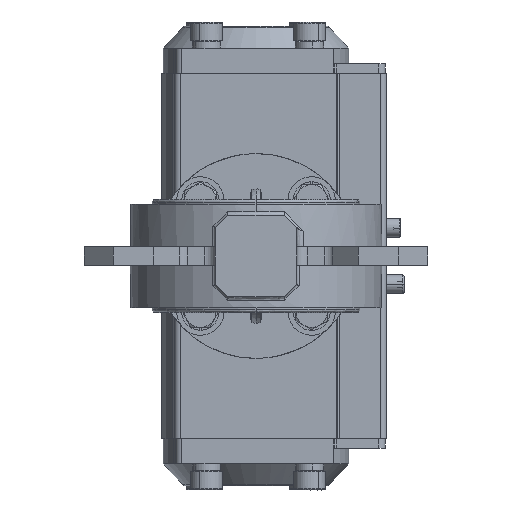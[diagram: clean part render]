
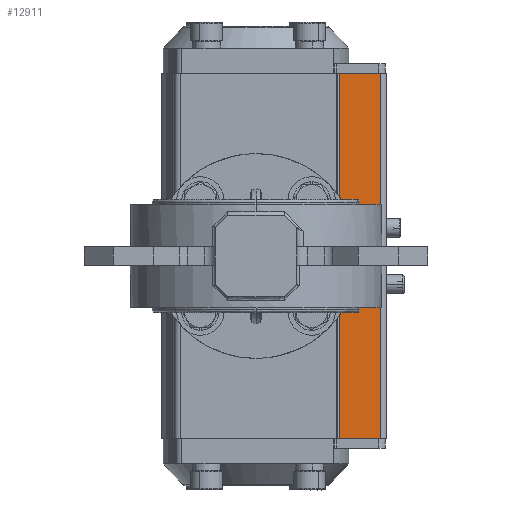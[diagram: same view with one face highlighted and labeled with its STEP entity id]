
A CAD part, front view. The second image highlights one B-rep face of the part: STEP entity #12911.
In plain terms, the highlighted planar face has unit normal (0, -1, 0).
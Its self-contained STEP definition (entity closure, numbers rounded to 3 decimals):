
#778 = VECTOR ( 'NONE', #35342, 1000. ) ;
#8633 = CARTESIAN_POINT ( 'NONE',  ( 39.5, 127., 209.218 ) ) ;
#9380 = DIRECTION ( 'NONE',  ( 1., 0., 0. ) ) ;
#9708 = VERTEX_POINT ( 'NONE', #60867 ) ;
#10057 = ORIENTED_EDGE ( 'NONE', *, *, #15924, .F. ) ;
#11407 = CARTESIAN_POINT ( 'NONE',  ( 26.5, 127., -58. ) ) ;
#12175 = EDGE_CURVE ( 'NONE', #20852, #20092, #34971, .T. ) ;
#12382 = VECTOR ( 'NONE', #40234, 1000. ) ;
#12911 = ADVANCED_FACE ( 'NONE', ( #13171 ), #67359, .T. ) ;
#13171 = FACE_OUTER_BOUND ( 'NONE', #42734, .T. ) ;
#13714 = CARTESIAN_POINT ( 'NONE',  ( 39.5, 127., 58. ) ) ;
#14573 = LINE ( 'NONE', #8633, #68448 ) ;
#15924 = EDGE_CURVE ( 'NONE', #20852, #70392, #63562, .T. ) ;
#20092 = VERTEX_POINT ( 'NONE', #73616 ) ;
#20662 = DIRECTION ( 'NONE',  ( 0., -1., 0. ) ) ;
#20852 = VERTEX_POINT ( 'NONE', #33163 ) ;
#24259 = EDGE_CURVE ( 'NONE', #20092, #9708, #70095, .T. ) ;
#26498 = CARTESIAN_POINT ( 'NONE',  ( 26., 127., -58. ) ) ;
#30419 = ORIENTED_EDGE ( 'NONE', *, *, #24259, .T. ) ;
#32128 = VECTOR ( 'NONE', #9380, 1000. ) ;
#32590 = DIRECTION ( 'NONE',  ( 0., 0., -1. ) ) ;
#33163 = CARTESIAN_POINT ( 'NONE',  ( 26.5, 127., 58. ) ) ;
#34971 = LINE ( 'NONE', #11407, #778 ) ;
#35342 = DIRECTION ( 'NONE',  ( 0., 0., -1. ) ) ;
#39991 = CARTESIAN_POINT ( 'NONE',  ( 0., 127., 58. ) ) ;
#40234 = DIRECTION ( 'NONE',  ( 1., 0., 0. ) ) ;
#42734 = EDGE_LOOP ( 'NONE', ( #10057, #75057, #30419, #67857 ) ) ;
#42989 = DIRECTION ( 'NONE',  ( 0., 0., -1. ) ) ;
#45681 = AXIS2_PLACEMENT_3D ( 'NONE', #26498, #20662, #42989 ) ;
#52775 = CARTESIAN_POINT ( 'NONE',  ( 0., 127., -58. ) ) ;
#60867 = CARTESIAN_POINT ( 'NONE',  ( 39.5, 127., -58. ) ) ;
#63562 = LINE ( 'NONE', #39991, #32128 ) ;
#67359 = PLANE ( 'NONE',  #45681 ) ;
#67857 = ORIENTED_EDGE ( 'NONE', *, *, #72401, .F. ) ;
#68448 = VECTOR ( 'NONE', #32590, 1000. ) ;
#70095 = LINE ( 'NONE', #52775, #12382 ) ;
#70392 = VERTEX_POINT ( 'NONE', #13714 ) ;
#72401 = EDGE_CURVE ( 'NONE', #70392, #9708, #14573, .T. ) ;
#73616 = CARTESIAN_POINT ( 'NONE',  ( 26.5, 127., -58. ) ) ;
#75057 = ORIENTED_EDGE ( 'NONE', *, *, #12175, .T. ) ;
